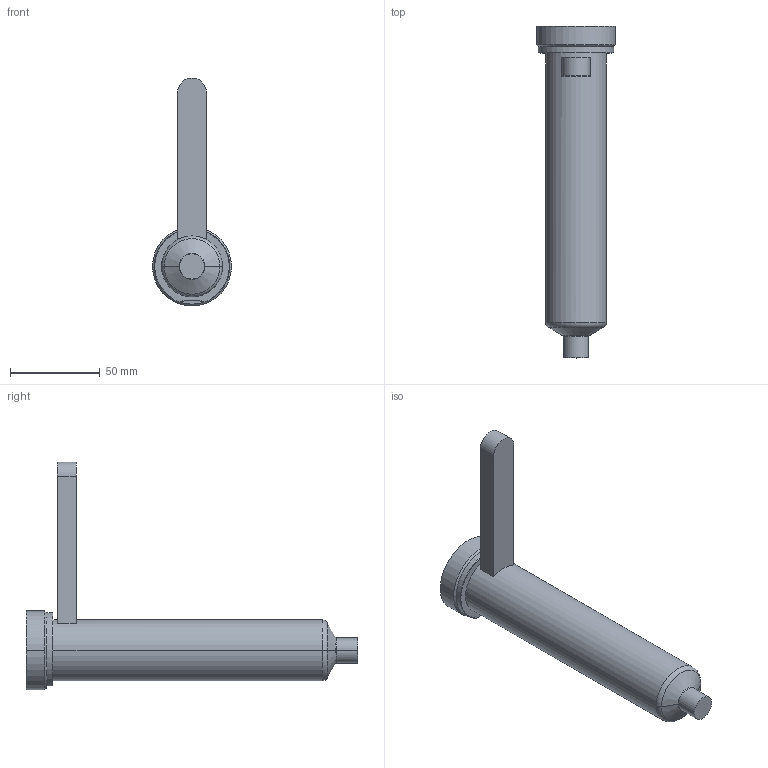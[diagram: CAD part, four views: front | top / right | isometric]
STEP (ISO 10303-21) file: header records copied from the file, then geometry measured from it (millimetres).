
FILE_DESCRIPTION((''),'2;1');
FILE_NAME('EO10_VG-FBE_WR_160_COT','2024-02-19T14:02:38',('sundharh'),(''),'CREO PARAMETRIC BY PTC INC, 2023154','CREO PARAMETRIC BY PTC INC, 2023154','');
FILE_SCHEMA(('CONFIG_CONTROL_DESIGN'));
Length unit declared in the file: millimetre
Products named in the file (1): EO10_VG-FBE_WR_160_COT
Bounding box: 44 x 185 x 127 mm (x, y, z)
Volume: 179362.9 mm3; surface area: 26441.5 mm2
Topology: 1 solids, 1 shells, 31 faces, 67 edges, 40 vertices
Faces by surface type: cylinder 11, plane 9, torus 7, cone 4
Entity records: 959 total; most frequent: CARTESIAN_POINT 226, DIRECTION 159, ORIENTED_EDGE 134, AXIS2_PLACEMENT_3D 67, EDGE_CURVE 67, VERTEX_POINT 40, CIRCLE 36, EDGE_LOOP 33
